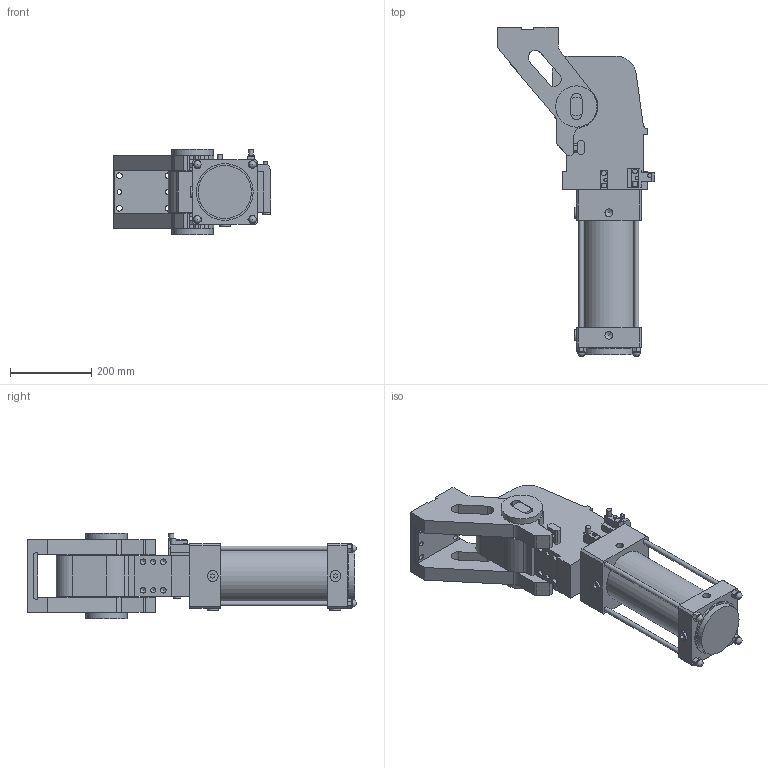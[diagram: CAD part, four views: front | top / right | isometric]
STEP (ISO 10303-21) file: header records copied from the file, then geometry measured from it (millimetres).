
FILE_DESCRIPTION(/* description */ (''),/* implementation_level */ '2;1');
FILE_NAME(/* name */ 'S:\Tom\INVENTOR FILES\AUTOMOTIVE\VEP\DUMP UNITS\C05.P015 RFM.2-RF.2\C05.P015 RFM.2-RF.2\RFM125\SATs\XPUZ125.2-107-2-ESL-P-G-X.stp',/* time_stamp */ '2018-07-29T17:43:29+01:00',/* author */ ('carl'),/* organization */ (''),/* preprocessor_version */ 'ST-DEVELOPER v16.13',/* originating_system */ 'Autodesk Inventor 2018',/* authorisation */ '');
FILE_SCHEMA (('AUTOMOTIVE_DESIGN { 1 0 10303 214 3 1 1 }'));
Length unit declared in the file: millimetre
Products named in the file (11): XPUZ125.2-107-2-ESL-P-G-X_TOP; XPUZ125; XPUZ125_1; XPUZ125_2; XPUZ125_3; XPUZ125_4; XPUZ125_5; XPUZ125_6; XPUZ125_7; XPUZ125_8; XPUZ125_9
Assembly tree (10 placements, depth 2):
  XPUZ125.2-107-2-ESL-P-G-X_TOP
    XPUZ125
    XPUZ125_1
    XPUZ125_2
    XPUZ125_3
    XPUZ125_4
    XPUZ125_5
    XPUZ125_6
    XPUZ125_7
    XPUZ125_8
    XPUZ125_9
Bounding box: 388 x 811.5 x 212 mm (x, y, z)
Volume: 16891307.6 mm3; surface area: 912901.9 mm2
Topology: 10 solids, 10 shells, 394 faces, 972 edges, 639 vertices
Faces by surface type: plane 268, cylinder 104, cone 18, sphere 4
Full cylindrical faces by diameter (mm): 5.5 x2, 8.5 x2, 10 x3, 10.2 x1, 11.8 x2, 12 x12, 13 x1, 14 x12, 18 x5, 19 x6, 20.6 x4, 27 x4, 45 x1, 50.5 x1, 60 x2, 102 x2, 130 x1, 131 x1, 140 x1
Entity records: 11351 total; most frequent: DIRECTION 1902, CARTESIAN_POINT 1883, ORIENTED_EDGE 1716, EDGE_CURVE 858, LINE 644, VECTOR 644, AXIS2_PLACEMENT_3D 629, VERTEX_POINT 610
